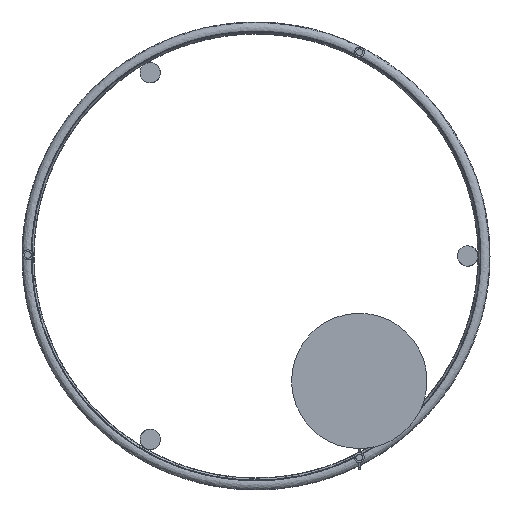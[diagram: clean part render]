
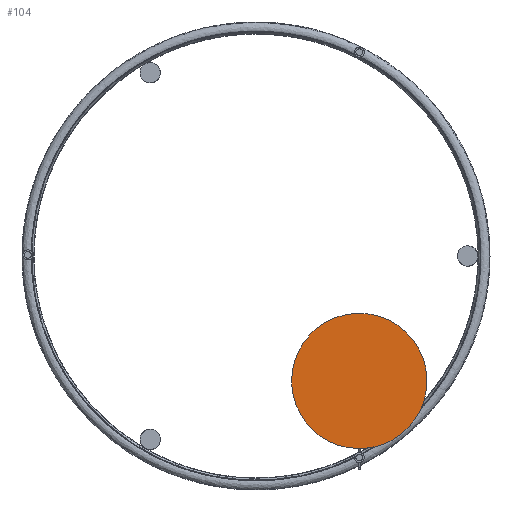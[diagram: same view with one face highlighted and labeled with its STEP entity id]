
A CAD part, top view. The second image highlights one B-rep face of the part: STEP entity #104.
In plain terms, the highlighted planar face has unit normal (0, 0, 1).
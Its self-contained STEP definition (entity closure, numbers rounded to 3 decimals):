
#104=ADVANCED_FACE('',(#156),#640,.T.);
#156=FACE_OUTER_BOUND('',#208,.T.);
#208=EDGE_LOOP('',(#373,#374,#375));
#373=ORIENTED_EDGE('',*,*,#466,.T.);
#374=ORIENTED_EDGE('',*,*,#464,.T.);
#375=ORIENTED_EDGE('',*,*,#466,.F.);
#464=EDGE_CURVE('',#611,#611,#525,.T.);
#466=EDGE_CURVE('',#613,#611,#557,.T.);
#525=(
BOUNDED_CURVE()
B_SPLINE_CURVE(2,(#5901,#5902,#5903,#5904,#5905,#5906,#5907,#5908,#5909),
 .UNSPECIFIED.,.T.,.F.)
B_SPLINE_CURVE_WITH_KNOTS((3,2,2,2,3),(0.,157.08,314.159,
471.239,628.319),.UNSPECIFIED.)
CURVE()
GEOMETRIC_REPRESENTATION_ITEM()
RATIONAL_B_SPLINE_CURVE((1.,0.707,1.,0.707,1.,0.707,
1.,0.707,1.))
REPRESENTATION_ITEM('')
);
#557=B_SPLINE_CURVE_WITH_KNOTS('',1,(#5913,#5914),.UNSPECIFIED.,.F.,.F.,
(2,2),(100.,200.),.UNSPECIFIED.);
#611=VERTEX_POINT('',#5898);
#613=VERTEX_POINT('',#5900);
#640=PLANE('',#785);
#785=AXIS2_PLACEMENT_3D('',#5897,#831,$);
#831=DIRECTION('',(0.,0.,1.));
#5897=CARTESIAN_POINT('',(12996.308,-1751.418,2599.239));
#5898=CARTESIAN_POINT('',(12996.308,-1651.418,2599.239));
#5900=CARTESIAN_POINT('',(12996.308,-1751.418,2599.239));
#5901=CARTESIAN_POINT('',(12996.308,-1651.418,2599.239));
#5902=CARTESIAN_POINT('',(12896.308,-1651.418,2599.239));
#5903=CARTESIAN_POINT('',(12896.308,-1751.418,2599.239));
#5904=CARTESIAN_POINT('',(12896.308,-1851.418,2599.239));
#5905=CARTESIAN_POINT('',(12996.308,-1851.418,2599.239));
#5906=CARTESIAN_POINT('',(13096.308,-1851.418,2599.239));
#5907=CARTESIAN_POINT('',(13096.308,-1751.418,2599.239));
#5908=CARTESIAN_POINT('',(13096.308,-1651.418,2599.239));
#5909=CARTESIAN_POINT('',(12996.308,-1651.418,2599.239));
#5913=CARTESIAN_POINT('',(12996.308,-1751.418,2599.239));
#5914=CARTESIAN_POINT('',(12996.308,-1651.418,2599.239));
